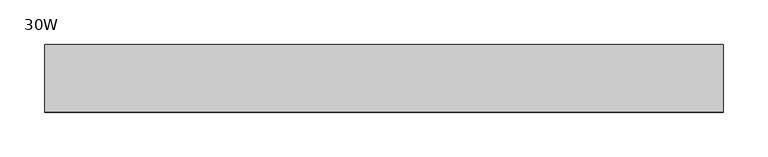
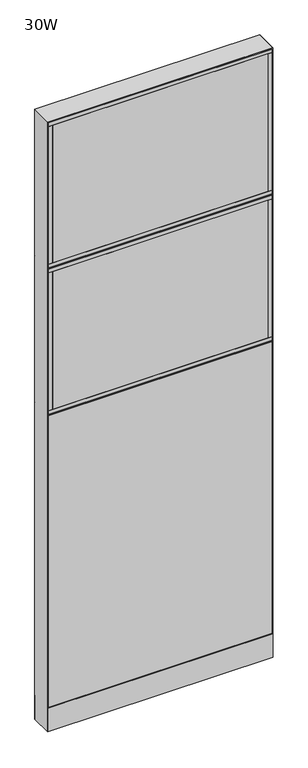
"""IFC4 building model written with IfcOpenShell, lengths in millimetres: furniture geometry, Steelcase - Montage - Frame - 86H - Enhanced Monolithic - Base Cavity : 30W."""

import ifcopenshell
import ifcopenshell.guid

model = None  # the IFC model being written
_history = None  # IfcOwnerHistory: only IFC2X3 demands one
_inside = {}  # id of a spatial element -> (the spatial element, [elements in it])
_under = {}  # id of a project, library or spatial element -> (it, [spatial elements below it])
_declared = {}  # id of a project -> (the project, [libraries it declares])
_typed = {}  # id of a type object -> (the type object, [elements of that type])
_made_of = {}  # id of a material, layer set ... -> (it, [elements and type objects made of it])


def new_model(schema):
    """Start an empty IFC model of exactly this schema.

    Asked for "IFC4X3", IfcOpenShell would pick the latest addendum, in which some entities
    have other attributes; the version numbers below select the first issue.
    IFC2X3 requires an IfcOwnerHistory on every rooted entity: one is made here for all.
    """
    global model, _history
    if schema == "IFC4X3":
        model = ifcopenshell.file(schema_version=(4, 3, 0, 0))
    else:
        model = ifcopenshell.file(schema=schema)
    _inside.clear()
    _under.clear()
    _declared.clear()
    _typed.clear()
    _made_of.clear()
    _history = None
    if model.schema == "IFC2X3":
        org = make("IfcOrganization", Name="unknown")
        user = make(
            "IfcPersonAndOrganization",
            ThePerson=make("IfcPerson", FamilyName="unknown"),
            TheOrganization=org,
        )
        app = make(
            "IfcApplication",
            ApplicationDeveloper=org,
            Version="unknown",
            ApplicationFullName="unknown",
            ApplicationIdentifier="unknown",
        )
        _history = make(
            "IfcOwnerHistory",
            OwningUser=user,
            OwningApplication=app,
            ChangeAction="ADDED",
            CreationDate=0,
        )
    return model


def make(cls, **values):
    """One entity of the class cls with the attributes given. An attribute that is None is left unset."""
    return model.create_entity(
        cls, **{name: value for name, value in values.items() if value is not None}
    )


def rooted(cls, **values):
    """An entity with a GlobalId (a new one), such as an element, a storey or a relation."""
    return make(cls, GlobalId=ifcopenshell.guid.new(), OwnerHistory=_history, **values)


def si_unit(unit_type, name, prefix=None):
    """IfcSIUnit, for example si_unit("LENGTHUNIT", "METRE", prefix="MILLI")."""
    return make("IfcSIUnit", UnitType=unit_type, Prefix=prefix, Name=name)


def assignment(units):
    """IfcUnitAssignment: the units of a project."""
    return None if units is None else make("IfcUnitAssignment", Units=units)


def point(xyz):
    """IfcCartesianPoint."""
    return None if xyz is None else make("IfcCartesianPoint", Coordinates=xyz)


def direction(xyz):
    """IfcDirection."""
    return None if xyz is None else make("IfcDirection", DirectionRatios=xyz)


def frame(location, z_axis=None, x_axis=None):
    """IfcAxis2Placement3D, a coordinate frame: its origin and axes. An axis left out is left unset."""
    return make(
        "IfcAxis2Placement3D",
        Location=point(location),
        Axis=direction(z_axis),
        RefDirection=direction(x_axis),
    )


def frame_2d(location, x_axis=None):
    """IfcAxis2Placement2D, a coordinate frame in the plane: its origin and x axis."""
    return make(
        "IfcAxis2Placement2D", Location=point(location), RefDirection=direction(x_axis)
    )


def origin():
    """The frame at (0, 0, 0) with its axes left unset."""
    return frame((0.0, 0.0, 0.0))


def origin_with_axes():
    """The frame at (0, 0, 0) with the z axis (0, 0, 1) and the x axis (1, 0, 0) written out."""
    return frame((0.0, 0.0, 0.0), z_axis=(0.0, 0.0, 1.0), x_axis=(1.0, 0.0, 0.0))


def place(relative_to, where):
    """IfcLocalPlacement: puts the frame where relative to a parent placement (None: the world)."""
    return make(
        "IfcLocalPlacement", PlacementRelTo=relative_to, RelativePlacement=where
    )


def context(
    kind, dimensions, precision=None, world=None, true_north=None, identifier=None
):
    """IfcGeometricRepresentationContext, for example the 3D "Model" context."""
    return make(
        "IfcGeometricRepresentationContext",
        ContextIdentifier=identifier,
        ContextType=kind,
        CoordinateSpaceDimension=dimensions,
        Precision=precision,
        WorldCoordinateSystem=world,
        TrueNorth=true_north,
    )


def project(units=None, contexts=None):
    """IfcProject with its units and contexts."""
    return rooted(
        "IfcProject",
        Name="project",
        RepresentationContexts=contexts,
        UnitsInContext=assignment(units),
    )


def spatial(cls, under=None, at=None, **own):
    """A site, building, storey or space (cls), placed at a placement, below another one or the project."""
    s = rooted(cls, ObjectPlacement=at, **own)
    if under is not None:
        _under.setdefault(under.id(), (under, []))[1].append(s)
    return s


def polyline(points):
    """IfcPolyline through the points."""
    return make("IfcPolyline", Points=[point(p) for p in points])


def circle_curve(where, radius):
    """IfcCircle in the frame where."""
    return make("IfcCircle", Position=where, Radius=radius)


def trimmed(basis, trim1, trim2, sense, master):
    """IfcTrimmedCurve: the piece of a basis curve between two trims."""
    return make(
        "IfcTrimmedCurve",
        BasisCurve=basis,
        Trim1=trim1,
        Trim2=trim2,
        SenseAgreement=sense,
        MasterRepresentation=master,
    )


def segment(curve, same_sense, transition):
    """IfcCompositeCurveSegment."""
    return make(
        "IfcCompositeCurveSegment",
        Transition=transition,
        SameSense=same_sense,
        ParentCurve=curve,
    )


def composite_curve(segments, self_intersect=None):
    """IfcCompositeCurve: segments joined end to end."""
    return make("IfcCompositeCurve", Segments=segments, SelfIntersect=self_intersect)


def outline(outer, holes=None, kind="AREA"):
    """IfcArbitraryClosedProfileDef: a profile drawn as a closed curve; with holes, ...WithVoids."""
    if holes is None:
        return make("IfcArbitraryClosedProfileDef", ProfileType=kind, OuterCurve=outer)
    return make(
        "IfcArbitraryProfileDefWithVoids",
        ProfileType=kind,
        OuterCurve=outer,
        InnerCurves=holes,
    )


def extrude(swept, where, along, depth):
    """IfcExtrudedAreaSolid: the profile swept, set in the frame where, extruded along a direction by depth."""
    return make(
        "IfcExtrudedAreaSolid",
        SweptArea=swept,
        Position=where,
        ExtrudedDirection=direction(along),
        Depth=depth,
    )


def faces_of(points, faces, orient=None, outer=None):
    """IfcFace entities. A face is a list of loops; a loop is a list of indices into points, from 0.

    orient and outer hold one flag for each loop. By default every Orientation is true, the
    first loop of a face is its IfcFaceOuterBound and the others are IfcFaceBound.
    """
    made = []
    for i, loops in enumerate(faces):
        bounds = []
        for j, loop in enumerate(loops):
            is_outer = j == 0 if outer is None else outer[i][j]
            bounds.append(
                make(
                    "IfcFaceOuterBound" if is_outer else "IfcFaceBound",
                    Bound=make("IfcPolyLoop", Polygon=[points[k] for k in loop]),
                    Orientation=True if orient is None else orient[i][j],
                )
            )
        made.append(make("IfcFace", Bounds=bounds))
    return made


def faceted_brep(points, faces, orient=None, outer=None, voids=None):
    """IfcFacetedBrep: a solid bounded by flat faces; with voids (closed shells), ...WithVoids."""
    shared = [point(p) for p in points]
    hull = make("IfcClosedShell", CfsFaces=faces_of(shared, faces, orient, outer))
    if voids is None:
        return make("IfcFacetedBrep", Outer=hull)
    return make(
        "IfcFacetedBrepWithVoids",
        Outer=hull,
        Voids=[
            make(cls, CfsFaces=faces_of(shared, fs, o, b)) for cls, fs, o, b in voids
        ],
    )


def shape(context_of_items, identifier, shape_type, items):
    """IfcShapeRepresentation: the items that make up one representation, for example the "Body"."""
    return make(
        "IfcShapeRepresentation",
        ContextOfItems=context_of_items,
        RepresentationIdentifier=identifier,
        RepresentationType=shape_type,
        Items=items,
    )


def source(mapping_origin, context_of_items, identifier, shape_type, items):
    """IfcRepresentationMap: a shape defined once, which mapped items show again and again."""
    return make(
        "IfcRepresentationMap",
        MappingOrigin=mapping_origin,
        MappedRepresentation=shape(context_of_items, identifier, shape_type, items),
    )


def transform(
    local_origin,
    x_axis=None,
    y_axis=None,
    z_axis=None,
    scale=None,
    scale2=None,
    scale3=None,
    uniform=True,
):
    """IfcCartesianTransformationOperator3D, or its non-uniform kind. x_axis, y_axis, z_axis: its Axis1, 2, 3."""
    if uniform:
        return make(
            "IfcCartesianTransformationOperator3D",
            Axis1=direction(x_axis),
            Axis2=direction(y_axis),
            LocalOrigin=point(local_origin),
            Scale=scale,
            Axis3=direction(z_axis),
        )
    return make(
        "IfcCartesianTransformationOperator3DnonUniform",
        Axis1=direction(x_axis),
        Axis2=direction(y_axis),
        LocalOrigin=point(local_origin),
        Scale=scale,
        Axis3=direction(z_axis),
        Scale2=scale2,
        Scale3=scale3,
    )


def mapped(mapping_source, mapping_target):
    """IfcMappedItem: shows the shape of a source again, moved by a transform."""
    return make(
        "IfcMappedItem", MappingSource=mapping_source, MappingTarget=mapping_target
    )


def made_of(thing, what):
    """Note that an element or type object is made of a material, layer set ...; save() writes the relation."""
    if what is not None:
        _made_of.setdefault(what.id(), (what, []))[1].append(thing)
    return thing


def element(
    cls,
    number,
    at=None,
    inside=None,
    cuts=None,
    type_object=None,
    material=None,
    context=None,
    identifier="Body",
    shape_type=None,
    held_by="IfcProductDefinitionShape",
    body=None,
    shapes=None,
    **own,
):
    """One element of the class cls, such as IfcWall. Its Tag is "e" and its number.

    at: its placement. inside: the storey or other place that contains it. cuts: it is an
    opening in that element (IfcRelVoidsElement). A single representation is given by context,
    identifier, shape_type and body (its items); several are given by shapes. held_by: the class
    of the entity that holds the representations. save() writes the other relations.
    """
    e = rooted(cls, Tag="e%d" % number, ObjectPlacement=at, **own)
    if body is not None:
        shapes = [shape(context, identifier, shape_type, body)]
    if shapes is not None:
        e.Representation = make(held_by, Representations=shapes)
    if inside is not None:
        _inside.setdefault(inside.id(), (inside, []))[1].append(e)
    if cuts is not None:
        rooted(
            "IfcRelVoidsElement", RelatingBuildingElement=cuts, RelatedOpeningElement=e
        )
    if type_object is not None:
        _typed.setdefault(type_object.id(), (type_object, []))[1].append(e)
    return made_of(e, material)


def aggregate(whole, parts):
    """IfcRelAggregates: a whole, such as a stair, and the parts it consists of."""
    return rooted("IfcRelAggregates", RelatingObject=whole, RelatedObjects=parts)


def save(model, path):
    """Write the relations noted so far, then the file.

    IfcRelAggregates (storeys below a building ...), IfcRelContainedInSpatialStructure (elements
    in a storey), IfcRelDefinesByType, IfcRelAssociatesMaterial and IfcRelDeclares: one each for
    every whole, place, type object, material and project.
    """
    for whole, parts in _under.values():
        aggregate(whole, parts)
    for where, things in _inside.values():
        rooted(
            "IfcRelContainedInSpatialStructure",
            RelatedElements=things,
            RelatingStructure=where,
        )
    for kind, things in _typed.values():
        rooted("IfcRelDefinesByType", RelatedObjects=things, RelatingType=kind)
    for what, things in _made_of.values():
        rooted("IfcRelAssociatesMaterial", RelatedObjects=things, RelatingMaterial=what)
    for by, libraries in _declared.values():
        rooted("IfcRelDeclares", RelatingContext=by, RelatedDefinitions=libraries)
    model.write(path)


def furniture_30w_9d73bb02(model_context):
    return source(origin(), model_context, "Body", "SolidModel", [
        extrude(outline(polyline([(3.175, 31.7500194), (3.175, 38.1000194), (758.825, 38.1000194), (758.825, 31.7500194), (3.175, 31.7500194)])), frame((0.0, 0.0, 92.075), z_axis=(0.0, 0.0, 1.0), x_axis=(1.0, 0.0, 0.0)), (0.0, 0.0, 1.0), 1041.4),
        extrude(outline(polyline([(746.125, -31.7499985), (746.125, -38.1000015), (15.875, -38.1000015), (15.875, -31.7499985), (746.125, -31.7499985)])), frame((0.0, 0.0, 1152.525), z_axis=(0.0, 0.0, 1.0), x_axis=(1.0, 0.0, 0.0)), (0.0, 0.0, 1.0), 492.125),
        extrude(outline(polyline([(746.125, 38.1000015), (746.125, 31.7500017), (15.875, 31.7500017), (15.875, 38.1000015), (746.125, 38.1000015)])), frame((0.0, 0.0, 1152.525), z_axis=(0.0, 0.0, 1.0), x_axis=(1.0, 0.0, 0.0)), (0.0, 0.0, 1.0), 492.125),
        extrude(outline(polyline([(758.825, -38.1000015), (746.125, -38.1000015), (746.125, 38.1000015), (758.825, 38.1000015), (758.825, -38.1000015)])), frame((0.0, 0.0, 1152.525), z_axis=(0.0, 0.0, 1.0), x_axis=(1.0, 0.0, 0.0)), (0.0, 0.0, 1.0), 492.125),
        extrude(outline(polyline([(15.875, -38.1000015), (3.175, -38.1000015), (3.175, 38.1000015), (15.875, 38.1000015), (15.875, -38.1000015)])), frame((0.0, 0.0, 1152.525), z_axis=(0.0, 0.0, 1.0), x_axis=(1.0, 0.0, 0.0)), (0.0, 0.0, 1.0), 492.125),
        extrude(outline(polyline([(758.825, -38.1000015), (3.175, -38.1000015), (3.175, 38.1000015), (758.825, 38.1000015), (758.825, -38.1000015)])), frame((0.0, 0.0, 1139.825), z_axis=(0.0, 0.0, 1.0), x_axis=(1.0, 0.0, 0.0)), (0.0, 0.0, 1.0), 12.7),
        extrude(outline(polyline([(758.825, -38.1000015), (3.175, -38.1000015), (3.175, 38.1000015), (758.825, 38.1000015), (758.825, -38.1000015)])), frame((0.0, 0.0, 1644.65), z_axis=(0.0, 0.0, 1.0), x_axis=(1.0, 0.0, 0.0)), (0.0, 0.0, 1.0), 12.7),
        extrude(outline(polyline([(746.125, 38.1000015), (746.125, 31.7500017), (15.875, 31.7500017), (15.875, 38.1000015), (746.125, 38.1000015)])), frame((0.0, 0.0, 1676.4), z_axis=(0.0, 0.0, 1.0), x_axis=(1.0, 0.0, 0.0)), (0.0, 0.0, 1.0), 492.125),
        extrude(outline(polyline([(746.125, -31.7499985), (746.125, -38.1000015), (15.875, -38.1000015), (15.875, -31.7499985), (746.125, -31.7499985)])), frame((0.0, 0.0, 1676.4), z_axis=(0.0, 0.0, 1.0), x_axis=(1.0, 0.0, 0.0)), (0.0, 0.0, 1.0), 492.125),
        extrude(outline(polyline([(758.825, -38.1000015), (746.125, -38.1000015), (746.125, 38.1000015), (758.825, 38.1000015), (758.825, -38.1000015)])), frame((0.0, 0.0, 1676.4), z_axis=(0.0, 0.0, 1.0), x_axis=(1.0, 0.0, 0.0)), (0.0, 0.0, 1.0), 492.125),
        extrude(outline(polyline([(15.875, -38.1000015), (3.175, -38.1000015), (3.175, 38.1000015), (15.875, 38.1000015), (15.875, -38.1000015)])), frame((0.0, 0.0, 1676.4), z_axis=(0.0, 0.0, 1.0), x_axis=(1.0, 0.0, 0.0)), (0.0, 0.0, 1.0), 492.125),
        extrude(outline(polyline([(758.825, -38.1000015), (3.175, -38.1000015), (3.175, 38.1000015), (758.825, 38.1000015), (758.825, -38.1000015)])), frame((0.0, 0.0, 1663.7), z_axis=(0.0, 0.0, 1.0), x_axis=(1.0, 0.0, 0.0)), (0.0, 0.0, 1.0), 12.7),
        extrude(outline(polyline([(758.825, -38.1000015), (3.175, -38.1000015), (3.175, 38.1000015), (758.825, 38.1000015), (758.825, -38.1000015)])), frame((0.0, 0.0, 2168.525), z_axis=(0.0, 0.0, 1.0), x_axis=(1.0, 0.0, 0.0)), (0.0, 0.0, 1.0), 12.7),
        faceted_brep([(762.0, 38.1026253, 1136.6499956), (755.6500047, 31.7526299, 1130.3000003), (6.3499917, 31.7526299, 1130.3000003), (-5.4e-06, 38.102627, 1136.6499973), (6.3499917, 31.7526299, 1142.9999997), (755.6500047, 31.7526299, 1142.9999997)], [[[0, 1, 2, 3]], [[4, 2, 1, 5]], [[3, 2, 4]], [[3, 4, 5, 0]], [[5, 1, 0]]]),
        faceted_brep([(6.3499917, 31.7526299, 1666.8749997), (6.3499917, 31.7526299, 1654.1750003), (755.6500047, 31.7526299, 1654.1750003), (755.6500047, 31.7526299, 1666.8749997), (-5.4e-06, 38.102627, 1660.5249973), (762.0, 38.1026253, 1660.5250044)], [[[0, 1, 2, 3]], [[4, 1, 0]], [[4, 0, 3, 5]], [[5, 2, 1, 4]], [[3, 2, 5]]]),
        extrude(outline(polyline([(3.175, -31.7500194), (758.825, -31.7500194), (758.825, -38.1000194), (3.175, -38.1000194), (3.175, -31.7500194)])), frame((0.0, 0.0, 92.075), z_axis=(0.0, 0.0, 1.0), x_axis=(1.0, 0.0, 0.0)), (0.0, 0.0, 1.0), 1041.4),
        extrude(outline(polyline([(746.125, 31.7499985), (15.875, 31.7499985), (15.875, 38.1000015), (746.125, 38.1000015), (746.125, 31.7499985)])), frame((0.0, 0.0, 1152.525), z_axis=(0.0, 0.0, 1.0), x_axis=(1.0, 0.0, 0.0)), (0.0, 0.0, 1.0), 492.125),
        extrude(outline(polyline([(746.125, -38.1000015), (15.875, -38.1000015), (15.875, -31.7500017), (746.125, -31.7500017), (746.125, -38.1000015)])), frame((0.0, 0.0, 1152.525), z_axis=(0.0, 0.0, 1.0), x_axis=(1.0, 0.0, 0.0)), (0.0, 0.0, 1.0), 492.125),
        extrude(outline(polyline([(758.825, 38.1000015), (758.825, -38.1000015), (746.125, -38.1000015), (746.125, 38.1000015), (758.825, 38.1000015)])), frame((0.0, 0.0, 1152.525), z_axis=(0.0, 0.0, 1.0), x_axis=(1.0, 0.0, 0.0)), (0.0, 0.0, 1.0), 492.125),
        extrude(outline(polyline([(15.875, 38.1000015), (15.875, -38.1000015), (3.175, -38.1000015), (3.175, 38.1000015), (15.875, 38.1000015)])), frame((0.0, 0.0, 1152.525), z_axis=(0.0, 0.0, 1.0), x_axis=(1.0, 0.0, 0.0)), (0.0, 0.0, 1.0), 492.125),
        extrude(outline(polyline([(758.825, 38.1000015), (758.825, -38.1000015), (3.175, -38.1000015), (3.175, 38.1000015), (758.825, 38.1000015)])), frame((0.0, 0.0, 1139.825), z_axis=(0.0, 0.0, 1.0), x_axis=(1.0, 0.0, 0.0)), (0.0, 0.0, 1.0), 12.7),
        extrude(outline(polyline([(758.825, 38.1000015), (758.825, -38.1000015), (3.175, -38.1000015), (3.175, 38.1000015), (758.825, 38.1000015)])), frame((0.0, 0.0, 1644.65), z_axis=(0.0, 0.0, 1.0), x_axis=(1.0, 0.0, 0.0)), (0.0, 0.0, 1.0), 12.7),
        extrude(outline(polyline([(746.125, -38.1000015), (15.875, -38.1000015), (15.875, -31.7500017), (746.125, -31.7500017), (746.125, -38.1000015)])), frame((0.0, 0.0, 1676.4), z_axis=(0.0, 0.0, 1.0), x_axis=(1.0, 0.0, 0.0)), (0.0, 0.0, 1.0), 492.125),
        extrude(outline(polyline([(746.125, 31.7499985), (15.875, 31.7499985), (15.875, 38.1000015), (746.125, 38.1000015), (746.125, 31.7499985)])), frame((0.0, 0.0, 1676.4), z_axis=(0.0, 0.0, 1.0), x_axis=(1.0, 0.0, 0.0)), (0.0, 0.0, 1.0), 492.125),
        extrude(outline(polyline([(758.825, 38.1000015), (758.825, -38.1000015), (746.125, -38.1000015), (746.125, 38.1000015), (758.825, 38.1000015)])), frame((0.0, 0.0, 1676.4), z_axis=(0.0, 0.0, 1.0), x_axis=(1.0, 0.0, 0.0)), (0.0, 0.0, 1.0), 492.125),
        extrude(outline(polyline([(15.875, 38.1000015), (15.875, -38.1000015), (3.175, -38.1000015), (3.175, 38.1000015), (15.875, 38.1000015)])), frame((0.0, 0.0, 1676.4), z_axis=(0.0, 0.0, 1.0), x_axis=(1.0, 0.0, 0.0)), (0.0, 0.0, 1.0), 492.125),
        extrude(outline(polyline([(758.825, 38.1000015), (758.825, -38.1000015), (3.175, -38.1000015), (3.175, 38.1000015), (758.825, 38.1000015)])), frame((0.0, 0.0, 1663.7), z_axis=(0.0, 0.0, 1.0), x_axis=(1.0, 0.0, 0.0)), (0.0, 0.0, 1.0), 12.7),
        extrude(outline(polyline([(758.825, 38.1000015), (758.825, -38.1000015), (3.175, -38.1000015), (3.175, 38.1000015), (758.825, 38.1000015)])), frame((0.0, 0.0, 2168.525), z_axis=(0.0, 0.0, 1.0), x_axis=(1.0, 0.0, 0.0)), (0.0, 0.0, 1.0), 12.7),
        faceted_brep([(762.0, -38.1026297, 1136.65), (0.0, -38.1026297, 1136.65), (6.3499917, -31.7526299, 1130.3000003), (755.6500047, -31.7526299, 1130.3000003), (6.3499917, -31.7526299, 1142.9999997), (755.6500047, -31.7526299, 1142.9999997)], [[[0, 1, 2, 3]], [[4, 5, 3, 2]], [[1, 4, 2]], [[1, 0, 5, 4]], [[5, 0, 3]]]),
        faceted_brep([(6.3499917, -31.7526299, 1666.8749997), (755.6500047, -31.7526299, 1666.8749997), (755.6500047, -31.7526299, 1654.1750003), (6.3499917, -31.7526299, 1654.1750003), (-5.4e-06, -38.102627, 1660.5250027), (762.0, -38.1026297, 1660.525)], [[[0, 1, 2, 3]], [[4, 0, 3]], [[4, 5, 1, 0]], [[5, 4, 3, 2]], [[1, 5, 2]]]),
        extrude(outline(polyline([(6.350003, -31.7499985), (755.649997, -31.7499985), (762.0, -38.1000015), (0.0, -38.1000015), (6.350003, -31.7499985)])), frame((0.0, 0.0, 4.064), z_axis=(0.0, 0.0, 1.0), x_axis=(1.0, 0.0, 0.0)), (0.0, 0.0, 1.0), 84.835997),
        extrude(outline(polyline([(6.3500002, 31.7500017), (0.0, 38.1000015), (762.0, 38.1000015), (755.6500002, 31.7500017), (6.3500002, 31.7500017)])), frame((0.0, 0.0, 4.064), z_axis=(0.0, 0.0, 1.0), x_axis=(1.0, 0.0, 0.0)), (0.0, 0.0, 1.0), 84.835997),
        faceted_brep([(762.0, -38.1000015, 2184.4), (0.0, -38.1000015, 2184.4), (6.3500484, -31.749953, 2178.0499516), (755.6499516, -31.749953, 2178.0499516), (6.3500484, 31.749953, 2178.0499516), (755.6499516, 31.749953, 2178.0499516), (0.0, 38.1000015, 2184.4), (762.0, 38.1000015, 2184.4)], [[[0, 1, 2, 3]], [[3, 2, 4, 5]], [[6, 7, 5, 4]], [[1, 0, 7, 6]], [[2, 1, 6, 4]], [[0, 3, 5, 7]]]),
        extrude(outline(composite_curve([segment(trimmed(circle_curve(frame_2d((44.45, 0.0)), 15.24), [point((29.21, 0.0))], [point((59.69, 0.0))], False, "CARTESIAN"), True, "CONTINUOUS"), segment(trimmed(circle_curve(frame_2d((44.45, 0.0)), 15.24), [point((59.69, 0.0))], [point((29.21, 0.0))], False, "CARTESIAN"), True, "CONTINUOUS")], self_intersect=False)), origin_with_axes(), (0.0, 0.0, 1.0), 4.064),
        extrude(outline(composite_curve([segment(trimmed(circle_curve(frame_2d((717.55, 0.0)), 15.24), [point((702.31, 0.0))], [point((732.79, 0.0))], False, "CARTESIAN"), True, "CONTINUOUS"), segment(trimmed(circle_curve(frame_2d((717.55, 0.0)), 15.24), [point((732.79, 0.0))], [point((702.31, 0.0))], False, "CARTESIAN"), True, "CONTINUOUS")], self_intersect=False)), origin_with_axes(), (0.0, 0.0, 1.0), 4.064),
        faceted_brep([(762.0, -38.1000106, 4.064), (762.0, 38.1000015, 4.064), (762.0, 38.1000015, 2184.4), (762.0, -38.1000106, 2184.3999637), (0.0, 38.1000015, 4.064), (0.0, -38.1000015, 4.064), (0.0, -38.1000015, 2184.4), (0.0, 38.1000015, 2184.4), (755.6499879, 31.7500017, 606.425), (6.35, 31.7500017, 606.425), (6.3499998, 31.7500017, 619.125), (755.6499879, 31.7500017, 619.125), (6.35, -31.7499985, 619.125), (755.6499879, -31.7499985, 619.125), (6.350003, -31.7499985, 606.425), (755.6499879, -31.7499985, 606.425), (755.6499879, 31.7500017, 1130.3), (6.35, 31.7500017, 1130.3), (6.3499998, 31.7500017, 1143.0), (755.6499879, 31.7500017, 1143.0), (6.35, -31.7499985, 1143.0), (755.6499879, -31.7499985, 1143.0), (6.350003, -31.7499985, 1130.3), (755.6499879, -31.7499985, 1130.3), (6.35, 31.7500015, 4.064), (6.35, -31.7500015, 4.064), (755.6499879, 31.7499894, 4.064), (755.6499879, -31.7499985, 4.064), (6.35, 31.7500015, 2178.05), (6.3499999, 31.7500016, 1666.875), (6.3499998, 31.7500017, 1654.175), (6.3500015, -31.75, 1654.175), (6.350003, -31.7499985, 1666.875), (6.35, -31.7500015, 2178.05), (755.6499879, 31.7500017, 1654.175), (755.6499879, -31.7499985, 1654.175), (755.6499879, 31.7500017, 1666.875), (755.6499879, -31.7499985, 1666.875), (755.6499879, -31.7499985, 2178.0499516), (755.6499879, 31.7499895, 2178.0499516)], [[[0, 1, 2, 3]], [[4, 5, 6, 7]], [[8, 9, 10, 11]], [[11, 10, 12, 13]], [[13, 12, 14, 15]], [[9, 8, 15, 14]], [[16, 17, 18, 19]], [[19, 18, 20, 21]], [[21, 20, 22, 23]], [[17, 16, 23, 22]], [[24, 25, 5, 4]], [[26, 1, 0, 27]], [[24, 4, 7, 28, 29, 30, 18, 17, 10, 9]], [[5, 25, 14, 12, 22, 20, 31, 32, 33, 6]], [[25, 24, 9, 14]], [[18, 30, 31, 20]], [[10, 17, 22, 12]], [[32, 29, 28, 33]], [[26, 27, 15, 8]], [[16, 11, 13, 23]], [[34, 19, 21, 35]], [[36, 37, 38, 39]], [[27, 0, 3, 38, 37, 35, 21, 23, 13, 15]], [[1, 26, 8, 11, 16, 19, 34, 36, 39, 2]], [[7, 6, 33, 28]], [[3, 2, 39, 38]], [[34, 30, 29, 36]], [[36, 29, 32, 37]], [[37, 32, 31, 35]], [[30, 34, 35, 31]]]),
    ])


if __name__ == "__main__":
    model = new_model("IFC4")
    model_context = context("Model", 3, world=origin())
    ifc_project = project(units=[si_unit("LENGTHUNIT", "METRE", prefix="MILLI")], contexts=[model_context])
    site = spatial("IfcSite", under=ifc_project)
    building = spatial("IfcBuilding", under=site)
    placement = place(None, origin())
    furniture_30w_shape = furniture_30w_9d73bb02(model_context)
    element("IfcFurniture", 1, ObjectType="Steelcase - Montage - Frame - 86H - Enhanced Monolithic - Base Cavity : 30W", at=placement, inside=building, context=model_context, shape_type="MappedRepresentation", body=[
        mapped(furniture_30w_shape, transform((0.0, 0.0, 0.0), x_axis=(1.0, 0.0, 0.0), y_axis=(0.0, 1.0, 0.0), z_axis=(0.0, 0.0, 1.0))),
    ])
    save(model, "model.ifc")
